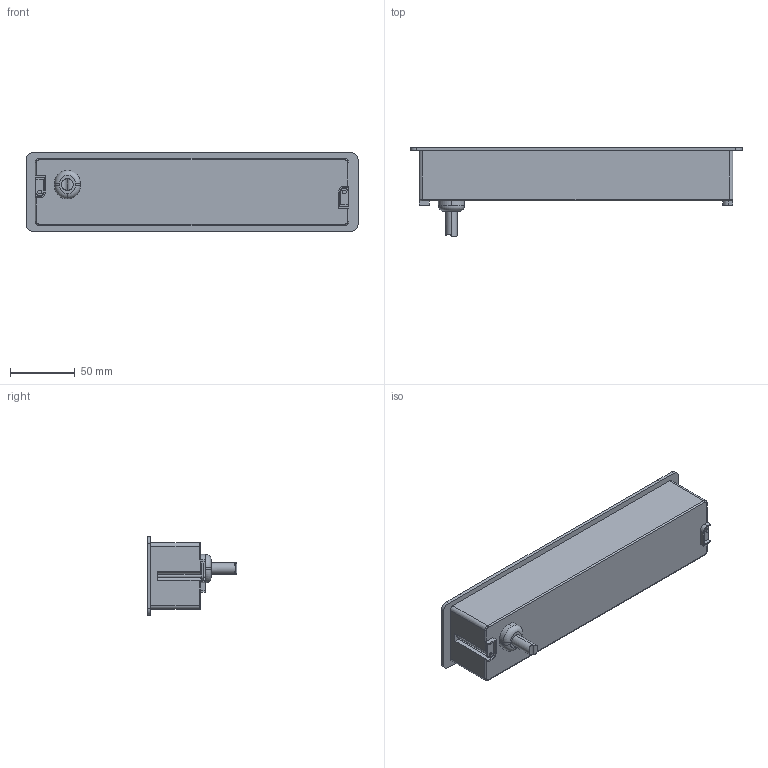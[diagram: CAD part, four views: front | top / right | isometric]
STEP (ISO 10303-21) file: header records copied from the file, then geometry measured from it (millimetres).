
FILE_DESCRIPTION (( 'STEP AP203' ), '1' );
FILE_NAME ('14-0969_SEAMLESS.STEP', '2026-01-19T05:47:54', ( '' ), ( '' ), 'SwSTEP 2.0', 'SolidWorks 2025', '' );
FILE_SCHEMA (( 'CONFIG_CONTROL_DESIGN' ));
Length unit declared in the file: millimetre
Products named in the file (1): 14-0969_SEAMLESS
Bounding box: 256.7 x 69.5 x 60.5 mm (x, y, z)
Volume: 523332.1 mm3; surface area: 62767.5 mm2
Topology: 1 solids, 1 shells, 249 faces, 613 edges, 404 vertices
Faces by surface type: plane 187, cylinder 55, torus 7
Entity records: 7445 total; most frequent: CARTESIAN_POINT 1349, DIRECTION 1226, ORIENTED_EDGE 1226, EDGE_CURVE 613, LINE 496, VECTOR 496, VERTEX_POINT 404, AXIS2_PLACEMENT_3D 365
